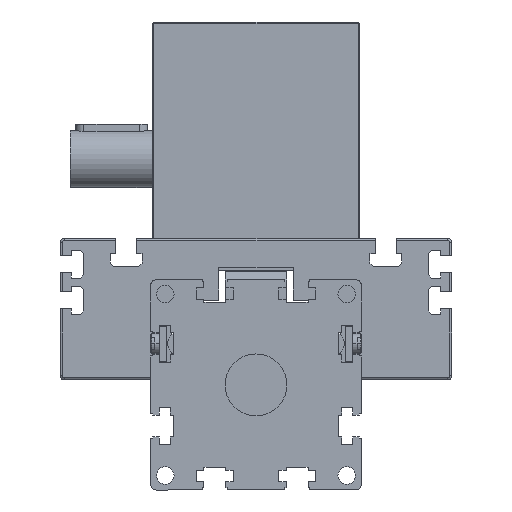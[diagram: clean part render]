
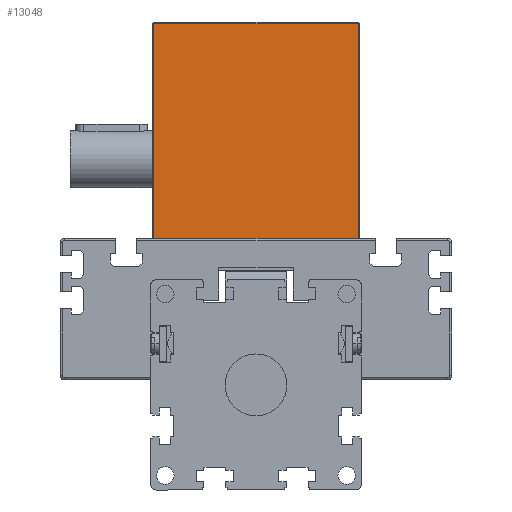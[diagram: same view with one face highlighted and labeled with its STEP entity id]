
A CAD part, front view. The second image highlights one B-rep face of the part: STEP entity #13048.
In plain terms, the highlighted planar face has unit normal (0, -1, 0) as drawn and (1, 0, 0) by its records, which use the part's own axes.
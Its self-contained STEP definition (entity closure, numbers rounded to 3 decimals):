
#422 = DIRECTION ( 'NONE',  ( 0., -1., 0. ) ) ;
#1296 = CARTESIAN_POINT ( 'NONE',  ( 85., -49.5, 0. ) ) ;
#2079 = VERTEX_POINT ( 'NONE', #23387 ) ;
#2321 = CARTESIAN_POINT ( 'NONE',  ( 85., -50., 0. ) ) ;
#3196 = CARTESIAN_POINT ( 'NONE',  ( 85., 49.5, 104.5 ) ) ;
#9018 = ORIENTED_EDGE ( 'NONE', *, *, #19711, .T. ) ;
#9233 = EDGE_CURVE ( 'NONE', #20939, #2079, #13981, .T. ) ;
#9728 = LINE ( 'NONE', #33262, #20724 ) ;
#11074 = CARTESIAN_POINT ( 'NONE',  ( 85., -50., 104.5 ) ) ;
#11181 = CARTESIAN_POINT ( 'NONE',  ( 85., 49.5, 0. ) ) ;
#11504 = EDGE_CURVE ( 'NONE', #22044, #25869, #18448, .T. ) ;
#12448 = VECTOR ( 'NONE', #30277, 1000. ) ;
#12483 = DIRECTION ( 'NONE',  ( 0., 0., -1. ) ) ;
#13048 = ADVANCED_FACE ( 'NONE', ( #23233 ), #33757, .T. ) ;
#13923 = ORIENTED_EDGE ( 'NONE', *, *, #11504, .T. ) ;
#13981 = LINE ( 'NONE', #11074, #14798 ) ;
#14798 = VECTOR ( 'NONE', #422, 1000. ) ;
#15888 = CARTESIAN_POINT ( 'NONE',  ( 85., -50., 0. ) ) ;
#17073 = LINE ( 'NONE', #19785, #12448 ) ;
#17246 = ORIENTED_EDGE ( 'NONE', *, *, #9233, .T. ) ;
#17840 = EDGE_LOOP ( 'NONE', ( #13923, #26495, #17246, #9018 ) ) ;
#18376 = EDGE_CURVE ( 'NONE', #25869, #20939, #17073, .T. ) ;
#18448 = LINE ( 'NONE', #15888, #31693 ) ;
#19711 = EDGE_CURVE ( 'NONE', #2079, #22044, #9728, .T. ) ;
#19785 = CARTESIAN_POINT ( 'NONE',  ( 85., 49.5, 105. ) ) ;
#20724 = VECTOR ( 'NONE', #12483, 1000. ) ;
#20939 = VERTEX_POINT ( 'NONE', #3196 ) ;
#22044 = VERTEX_POINT ( 'NONE', #1296 ) ;
#22715 = DIRECTION ( 'NONE',  ( 1., 0., 0. ) ) ;
#23233 = FACE_OUTER_BOUND ( 'NONE', #17840, .T. ) ;
#23387 = CARTESIAN_POINT ( 'NONE',  ( 85., -49.5, 104.5 ) ) ;
#24257 = DIRECTION ( 'NONE',  ( 0., 1., 0. ) ) ;
#25869 = VERTEX_POINT ( 'NONE', #11181 ) ;
#25975 = DIRECTION ( 'NONE',  ( 0., 0., -1. ) ) ;
#26495 = ORIENTED_EDGE ( 'NONE', *, *, #18376, .T. ) ;
#29881 = AXIS2_PLACEMENT_3D ( 'NONE', #2321, #22715, #25975 ) ;
#30277 = DIRECTION ( 'NONE',  ( 0., 0., 1. ) ) ;
#31693 = VECTOR ( 'NONE', #24257, 1000. ) ;
#33262 = CARTESIAN_POINT ( 'NONE',  ( 85., -49.5, 0. ) ) ;
#33757 = PLANE ( 'NONE',  #29881 ) ;
